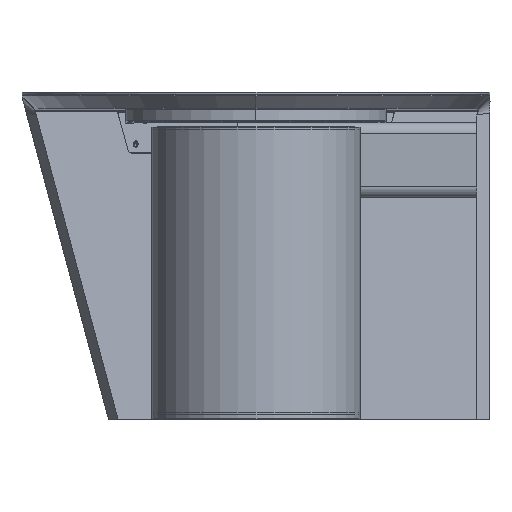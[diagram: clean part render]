
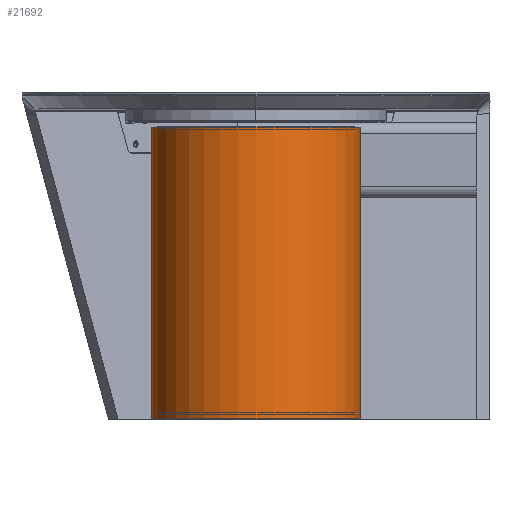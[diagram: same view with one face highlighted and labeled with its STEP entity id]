
A CAD part, top view. The second image highlights one B-rep face of the part: STEP entity #21692.
In plain terms, the highlighted cylindrical face has radius 240 mm (diameter 480 mm), a partial arc.
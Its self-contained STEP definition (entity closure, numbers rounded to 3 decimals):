
#215 = CIRCLE ( 'NONE', #13887, 240. ) ;
#445 = CARTESIAN_POINT ( 'NONE',  ( 0., 0., 240. ) ) ;
#933 = CARTESIAN_POINT ( 'NONE',  ( 0., 670., 240. ) ) ;
#2340 = ORIENTED_EDGE ( 'NONE', *, *, #10410, .T. ) ;
#2789 = VERTEX_POINT ( 'NONE', #445 ) ;
#2840 = CARTESIAN_POINT ( 'NONE',  ( 0., 670., 240. ) ) ;
#3058 = EDGE_LOOP ( 'NONE', ( #4114, #19230, #2340, #24089 ) ) ;
#4114 = ORIENTED_EDGE ( 'NONE', *, *, #20127, .F. ) ;
#5206 = AXIS2_PLACEMENT_3D ( 'NONE', #12732, #10903, #23959 ) ;
#5614 = DIRECTION ( 'NONE',  ( 0., -1., 0. ) ) ;
#7511 = VERTEX_POINT ( 'NONE', #2840 ) ;
#7968 = LINE ( 'NONE', #19431, #18524 ) ;
#8828 = VECTOR ( 'NONE', #9726, 1000. ) ;
#9044 = DIRECTION ( 'NONE',  ( 0., 0., -1. ) ) ;
#9726 = DIRECTION ( 'NONE',  ( 0., -1., 0. ) ) ;
#9971 = LINE ( 'NONE', #933, #8828 ) ;
#10410 = EDGE_CURVE ( 'NONE', #2789, #13892, #15337, .T. ) ;
#10850 = FACE_OUTER_BOUND ( 'NONE', #3058, .T. ) ;
#10903 = DIRECTION ( 'NONE',  ( 0., 1., 0. ) ) ;
#11228 = CARTESIAN_POINT ( 'NONE',  ( 0., 670., -240. ) ) ;
#12677 = CYLINDRICAL_SURFACE ( 'NONE', #21360, 240. ) ;
#12732 = CARTESIAN_POINT ( 'NONE',  ( 0., 0., 0. ) ) ;
#13887 = AXIS2_PLACEMENT_3D ( 'NONE', #23099, #15996, #23315 ) ;
#13892 = VERTEX_POINT ( 'NONE', #14599 ) ;
#14599 = CARTESIAN_POINT ( 'NONE',  ( 0., 0., -240. ) ) ;
#15337 = CIRCLE ( 'NONE', #5206, 240. ) ;
#15996 = DIRECTION ( 'NONE',  ( 0., 1., 0. ) ) ;
#18071 = EDGE_CURVE ( 'NONE', #19678, #13892, #7968, .T. ) ;
#18524 = VECTOR ( 'NONE', #20897, 1000. ) ;
#19230 = ORIENTED_EDGE ( 'NONE', *, *, #20432, .T. ) ;
#19431 = CARTESIAN_POINT ( 'NONE',  ( 0., 670., -240. ) ) ;
#19678 = VERTEX_POINT ( 'NONE', #11228 ) ;
#20127 = EDGE_CURVE ( 'NONE', #7511, #19678, #215, .T. ) ;
#20375 = CARTESIAN_POINT ( 'NONE',  ( 0., 670., 0. ) ) ;
#20432 = EDGE_CURVE ( 'NONE', #7511, #2789, #9971, .T. ) ;
#20897 = DIRECTION ( 'NONE',  ( 0., -1., 0. ) ) ;
#21360 = AXIS2_PLACEMENT_3D ( 'NONE', #20375, #5614, #9044 ) ;
#21692 = ADVANCED_FACE ( 'NONE', ( #10850 ), #12677, .T. ) ;
#23099 = CARTESIAN_POINT ( 'NONE',  ( 0., 670., 0. ) ) ;
#23315 = DIRECTION ( 'NONE',  ( 0., 0., 1. ) ) ;
#23959 = DIRECTION ( 'NONE',  ( 0., 0., 1. ) ) ;
#24089 = ORIENTED_EDGE ( 'NONE', *, *, #18071, .F. ) ;
